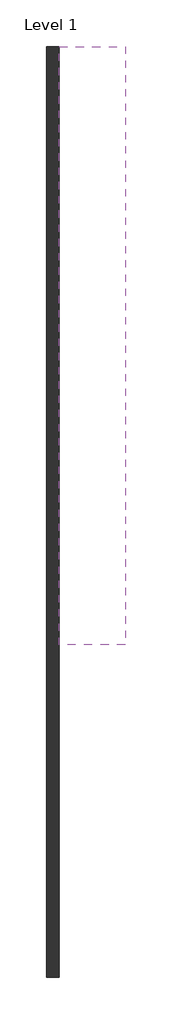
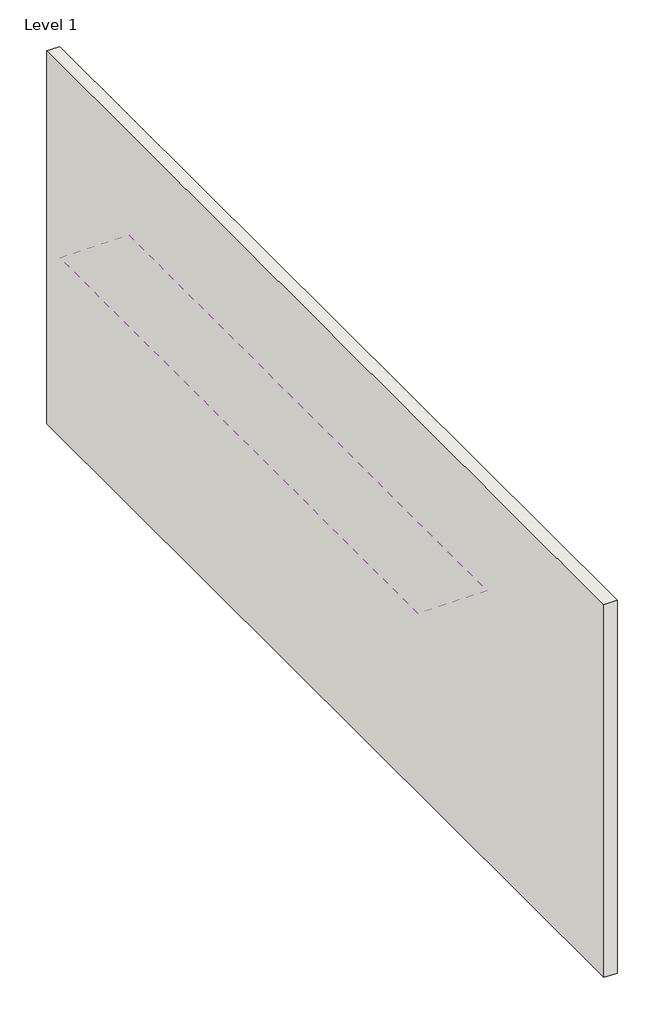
# One storey, incomplete: 1 covering, 1 wall.
"""IFC4 building model written with IfcOpenShell, lengths in millimetres."""

from ifc_helpers import new_model, si_unit, frame, origin, origin_with_axes, place, context, project, spatial, polyline, outline, extrude, element, save

model = new_model("IFC4")

# Units and contexts
model_context = context("Model", 3, world=origin())
ifc_project = project(units=[si_unit("LENGTHUNIT", "METRE", prefix="MILLI")], contexts=[model_context])

# Site, building, storey
site = spatial("IfcSite", under=ifc_project)
building = spatial("IfcBuilding", under=site)
storey = spatial("IfcBuildingStorey", under=building, Name="Level 1", Elevation=0.0)

# Covering
placement = place(None, origin())
element("IfcCovering", 1, ObjectType="2' x 4' ACT System", at=placement, inside=storey, context=model_context, shape_type="SweptSolid", body=[
    extrude(outline(polyline([(-17947.0972633, 14271.0348345), (-17947.0972633, 4669.8348345), (-19013.8972633, 4669.8348345), (-19013.8972633, 14271.0348345), (-17947.0972633, 14271.0348345)])), frame((0.0, 0.0, 2644.5845), z_axis=(0.0, 0.0, 1.0), x_axis=(1.0, 0.0, 0.0)), (0.0, 0.0, 1.0), 57.15),
])

# Wall
element("IfcWall", 2, ObjectType="Generic - 8\"", at=placement, inside=storey, context=model_context, shape_type="SweptSolid", body=[
    extrude(outline(polyline([(-19217.0972633, -664.1651655), (-19217.0972633, 14271.0348345), (-19013.8972633, 14271.0348345), (-19013.8972633, -664.1651655), (-19217.0972633, -664.1651655)])), origin_with_axes(), (0.0, 0.0, 1.0), 6096.0),
])

save(model, "model.ifc")
